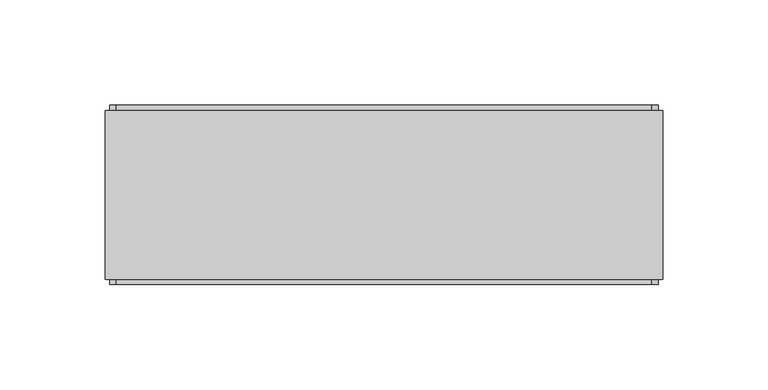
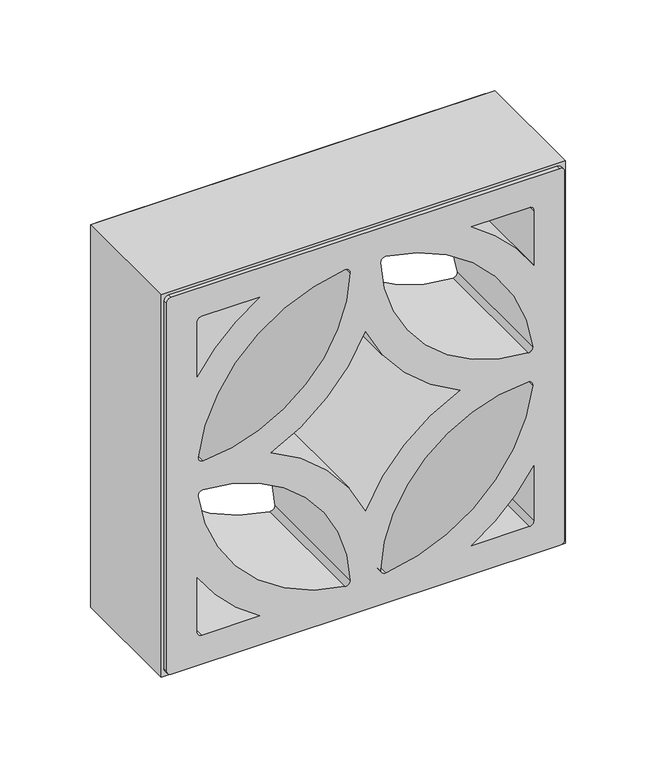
"""IFC4 building model written with IfcOpenShell, lengths in millimetres: plate geometry, PORTOBELLO - STUDIO CRAFT 4 26X26 (PAINEL CORTINA) : STUDIO CRAFT 4."""

from ifc_helpers import new_model, si_unit, point, frame, frame_2d, origin, place, context, project, spatial, polyline, circle_curve, trimmed, segment, composite_curve, outline, extrude, source, transform, mapped, element, save


def plate_f0cbffd6(model_context):
    return source(origin(), model_context, "Body", "SweptSolid", [
        extrude(outline(composite_curve([segment(polyline([(5.0, 130.0), (259.0, 130.0)]), True, "CONTINUOUS"), segment(trimmed(circle_curve(frame_2d((259.0, 127.0)), 3.0), [point((259.0, 130.0))], [point((262.0, 127.0))], False, "CARTESIAN"), True, "CONTINUOUS"), segment(polyline([(262.0, 127.0), (262.0, -127.0)]), True, "CONTINUOUS"), segment(trimmed(circle_curve(frame_2d((259.0, -127.0)), 3.0), [point((262.0, -127.0))], [point((259.0, -130.0))], False, "CARTESIAN"), True, "CONTINUOUS"), segment(polyline([(259.0, -130.0), (5.0, -130.0)]), True, "CONTINUOUS"), segment(trimmed(circle_curve(frame_2d((5.0, -127.0)), 3.0), [point((5.0, -130.0))], [point((2.0, -127.0))], False, "CARTESIAN"), True, "CONTINUOUS"), segment(polyline([(2.0, -127.0), (2.0, 127.0)]), True, "CONTINUOUS"), segment(trimmed(circle_curve(frame_2d((5.0, 127.0)), 3.0), [point((2.0, 127.0))], [point((5.0, 130.0))], False, "CARTESIAN"), True, "CONTINUOUS")], self_intersect=False), holes=[composite_curve([segment(polyline([(201.2820323, -110.0), (239.0, -110.0)]), True, "CONTINUOUS"), segment(trimmed(circle_curve(frame_2d((239.0, -107.0)), 3.0), [point((239.0, -110.0))], [point((242.0, -107.0))], True, "CARTESIAN"), True, "CONTINUOUS"), segment(polyline([(242.0, -107.0), (242.0, -69.2820323)]), True, "CONTINUOUS"), segment(trimmed(circle_curve(frame_2d((132.0, 0.0)), 130.0), [point((242.0, -69.2820323))], [point((201.2820323, -110.0))], False, "CARTESIAN"), True, "CONTINUOUS")], self_intersect=False), composite_curve([segment(polyline([(239.0, 110.0), (201.2820323, 110.0)]), True, "CONTINUOUS"), segment(trimmed(circle_curve(frame_2d((132.0, 0.0)), 130.0), [point((201.2820323, 110.0))], [point((242.0, 69.2820323))], False, "CARTESIAN"), True, "CONTINUOUS"), segment(polyline([(242.0, 69.2820323), (242.0, 107.0)]), True, "CONTINUOUS"), segment(trimmed(circle_curve(frame_2d((239.0, 107.0)), 3.0), [point((242.0, 107.0))], [point((239.0, 110.0))], True, "CARTESIAN"), True, "CONTINUOUS")], self_intersect=False), composite_curve([segment(polyline([(25.0, -110.0), (62.7179677, -110.0)]), True, "CONTINUOUS"), segment(trimmed(circle_curve(frame_2d((132.0, 0.0)), 130.0), [point((62.7179677, -110.0))], [point((22.0, -69.2820323))], False, "CARTESIAN"), True, "CONTINUOUS"), segment(polyline([(22.0, -69.2820323), (22.0, -107.0)]), True, "CONTINUOUS"), segment(trimmed(circle_curve(frame_2d((25.0, -107.0)), 3.0), [point((22.0, -107.0))], [point((25.0, -110.0))], True, "CARTESIAN"), True, "CONTINUOUS")], self_intersect=False), composite_curve([segment(polyline([(22.0, 107.0), (22.0, 69.2820323)]), True, "CONTINUOUS"), segment(trimmed(circle_curve(frame_2d((132.0, 0.0)), 130.0), [point((22.0, 69.2820323))], [point((62.7179677, 110.0))], False, "CARTESIAN"), True, "CONTINUOUS"), segment(polyline([(62.7179677, 110.0), (25.0, 110.0)]), True, "CONTINUOUS"), segment(trimmed(circle_curve(frame_2d((25.0, 107.0)), 3.0), [point((25.0, 110.0))], [point((22.0, 107.0))], True, "CARTESIAN"), True, "CONTINUOUS")], self_intersect=False), composite_curve([segment(trimmed(circle_curve(frame_2d((132.0, 0.0)), 110.0), [point((145.4240502, -109.1778131))], [point((241.1778131, -13.4240502))], True, "CARTESIAN"), True, "CONTINUOUS"), segment(trimmed(circle_curve(frame_2d((238.2002364, -13.0579398)), 3.0), [point((241.1778131, -13.4240502))], [point((238.0963172, -10.0597402))], True, "CARTESIAN"), True, "CONTINUOUS"), segment(trimmed(circle_curve(frame_2d((241.5445115, -109.5445115)), 99.5445115), [point((238.0963172, -10.0597402))], [point((142.0597402, -106.0963172))], True, "CARTESIAN"), True, "CONTINUOUS"), segment(trimmed(circle_curve(frame_2d((145.0579398, -106.2002364)), 3.0), [point((142.0597402, -106.0963172))], [point((145.4240502, -109.1778131))], True, "CARTESIAN"), True, "CONTINUOUS")], self_intersect=False), composite_curve([segment(trimmed(circle_curve(frame_2d((241.5445115, 109.5445115)), 99.5445115), [point((142.0597402, 106.0963172))], [point((238.0963172, 10.0597402))], True, "CARTESIAN"), True, "CONTINUOUS"), segment(trimmed(circle_curve(frame_2d((238.2002364, 13.0579398)), 3.0), [point((238.0963172, 10.0597402))], [point((241.1778131, 13.4240502))], True, "CARTESIAN"), True, "CONTINUOUS"), segment(trimmed(circle_curve(frame_2d((132.0, 0.0)), 110.0), [point((241.1778131, 13.4240502))], [point((145.4240502, 109.1778131))], True, "CARTESIAN"), True, "CONTINUOUS"), segment(trimmed(circle_curve(frame_2d((145.0579398, 106.2002364)), 3.0), [point((145.4240502, 109.1778131))], [point((142.0597402, 106.0963172))], True, "CARTESIAN"), True, "CONTINUOUS")], self_intersect=False), composite_curve([segment(trimmed(circle_curve(frame_2d((118.9420602, 106.2002364)), 3.0), [point((121.9402598, 106.0963172))], [point((118.5759498, 109.1778131))], True, "CARTESIAN"), True, "CONTINUOUS"), segment(trimmed(circle_curve(frame_2d((132.0, 0.0)), 110.0), [point((118.5759498, 109.1778131))], [point((22.8221869, 13.4240502))], True, "CARTESIAN"), True, "CONTINUOUS"), segment(trimmed(circle_curve(frame_2d((25.7997636, 13.0579398)), 3.0), [point((22.8221869, 13.4240502))], [point((25.9036828, 10.0597402))], True, "CARTESIAN"), True, "CONTINUOUS"), segment(trimmed(circle_curve(frame_2d((22.4554885, 109.5445115)), 99.5445115), [point((25.9036828, 10.0597402))], [point((121.9402598, 106.0963172))], True, "CARTESIAN"), True, "CONTINUOUS")], self_intersect=False), composite_curve([segment(trimmed(circle_curve(frame_2d((22.4554885, -109.5445115)), 99.5445115), [point((121.9402598, -106.0963172))], [point((25.9036828, -10.0597402))], True, "CARTESIAN"), True, "CONTINUOUS"), segment(trimmed(circle_curve(frame_2d((25.7997636, -13.0579398)), 3.0), [point((25.9036828, -10.0597402))], [point((22.8221869, -13.4240502))], True, "CARTESIAN"), True, "CONTINUOUS"), segment(trimmed(circle_curve(frame_2d((132.0, 0.0)), 110.0), [point((22.8221869, -13.4240502))], [point((118.5759498, -109.1778131))], True, "CARTESIAN"), True, "CONTINUOUS"), segment(trimmed(circle_curve(frame_2d((118.9420602, -106.2002364)), 3.0), [point((118.5759498, -109.1778131))], [point((121.9402598, -106.0963172))], True, "CARTESIAN"), True, "CONTINUOUS")], self_intersect=False), composite_curve([segment(trimmed(circle_curve(frame_2d((241.5445115, -109.5445115)), 119.5445115), [point((132.0, -61.6812664))], [point((193.6812664, 0.0))], False, "CARTESIAN"), True, "CONTINUOUS"), segment(trimmed(circle_curve(frame_2d((241.5445115, 109.5445115)), 119.5445115), [point((193.6812664, 0.0))], [point((132.0, 61.6812664))], False, "CARTESIAN"), True, "CONTINUOUS"), segment(trimmed(circle_curve(frame_2d((22.4554885, 109.5445115)), 119.5445115), [point((132.0, 61.6812664))], [point((70.3187336, 0.0))], False, "CARTESIAN"), True, "CONTINUOUS"), segment(trimmed(circle_curve(frame_2d((22.4554885, -109.5445115)), 119.5445115), [point((70.3187336, 0.0))], [point((132.0, -61.6812664))], False, "CARTESIAN"), True, "CONTINUOUS")], self_intersect=False)]), frame((0.0, -42.5, 0.0), z_axis=(0.0, 1.0, 0.0), x_axis=(0.0, 0.0, 1.0)), (0.0, 0.0, 1.0), 85.0),
        extrude(outline(polyline([(264.0, -132.0), (0.0, -132.0), (0.0, 132.0), (264.0, 132.0), (264.0, -132.0)]), holes=[composite_curve([segment(trimmed(circle_curve(frame_2d((5.0, -127.0)), 3.0), [point((2.0, -127.0))], [point((5.0, -130.0))], True, "CARTESIAN"), True, "CONTINUOUS"), segment(polyline([(5.0, -130.0), (259.0, -130.0)]), True, "CONTINUOUS"), segment(trimmed(circle_curve(frame_2d((259.0, -127.0)), 3.0), [point((259.0, -130.0))], [point((262.0, -127.0))], True, "CARTESIAN"), True, "CONTINUOUS"), segment(polyline([(262.0, -127.0), (262.0, 127.0)]), True, "CONTINUOUS"), segment(trimmed(circle_curve(frame_2d((259.0, 127.0)), 3.0), [point((262.0, 127.0))], [point((259.0, 130.0))], True, "CARTESIAN"), True, "CONTINUOUS"), segment(polyline([(259.0, 130.0), (5.0, 130.0)]), True, "CONTINUOUS"), segment(trimmed(circle_curve(frame_2d((5.0, 127.0)), 3.0), [point((5.0, 130.0))], [point((2.0, 127.0))], True, "CARTESIAN"), True, "CONTINUOUS"), segment(polyline([(2.0, 127.0), (2.0, -127.0)]), True, "CONTINUOUS")], self_intersect=False)]), frame((0.0, -40.0, 0.0), z_axis=(0.0, 1.0, 0.0), x_axis=(0.0, 0.0, 1.0)), (0.0, 0.0, 1.0), 80.0),
    ])


if __name__ == "__main__":
    model = new_model("IFC4")
    model_context = context("Model", 3, world=origin())
    ifc_project = project(units=[si_unit("LENGTHUNIT", "METRE", prefix="MILLI")], contexts=[model_context])
    site = spatial("IfcSite", under=ifc_project)
    building = spatial("IfcBuilding", under=site)
    placement = place(None, origin())
    plate_shape = plate_f0cbffd6(model_context)
    element("IfcPlate", 1, ObjectType="PORTOBELLO - STUDIO CRAFT 4 26X26 (PAINEL CORTINA) : STUDIO CRAFT 4", at=placement, inside=building, context=model_context, shape_type="MappedRepresentation", body=[
        mapped(plate_shape, transform((0.0, 0.0, 0.0), x_axis=(1.0, 0.0, 0.0), y_axis=(0.0, 1.0, 0.0), z_axis=(0.0, 0.0, 1.0))),
    ])
    save(model, "model.ifc")
